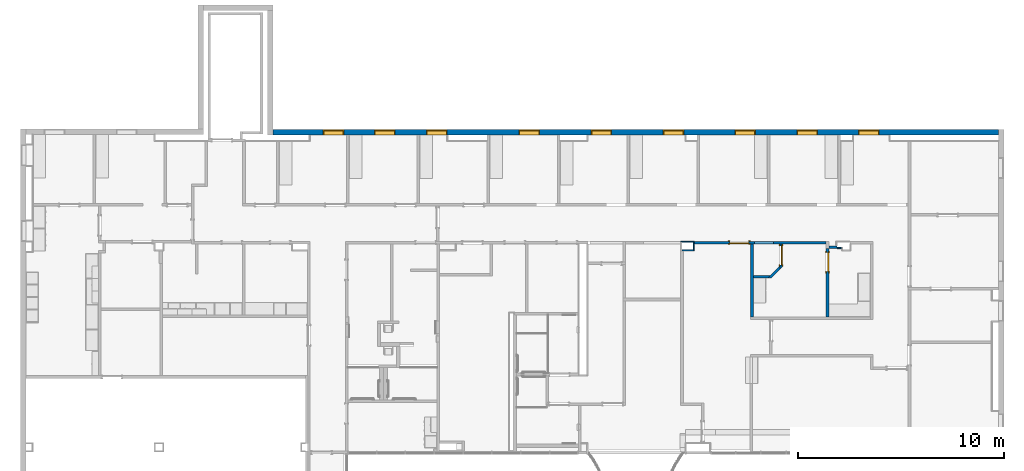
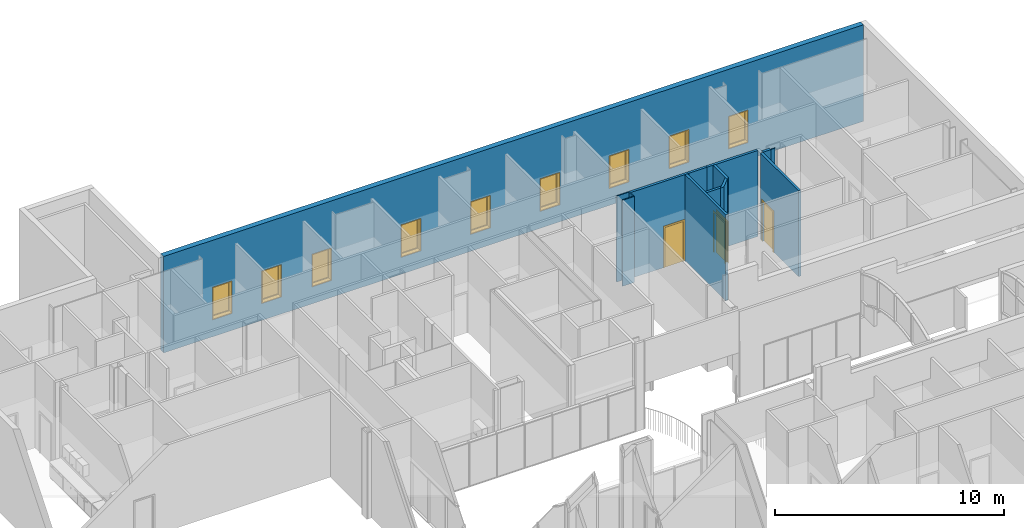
# One storey, part 23 of 47: 14 walls, 9 windows, 3 doors, 12 openings.
"""IFC2X3 building model written with IfcOpenShell, lengths in metres."""

from ifc_helpers import new_model, entity, si_unit, converted_unit, frame, frame_2d, origin, origin_2d_with_axis, place, context, project, spatial, polyline, rectangle, outline, extrude, source, transform, mapped, material, layer, layer_set, layer_usage, type_object, type_shapes, element, fill, save


model = new_model("IFC2X3")

# Units and contexts
model_context = context("Model", 3, precision=1e-09, world=origin())
plan_context = context("Plan", 3, precision=1e-09, world=origin())
ifc_project = project(units=[si_unit("LENGTHUNIT", "METRE"), si_unit("AREAUNIT", "SQUARE_METRE"), si_unit("VOLUMEUNIT", "CUBIC_METRE"), converted_unit("PLANEANGLEUNIT", "DEGREE", entity("IfcRatioMeasure", 0.01745329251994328), si_unit("PLANEANGLEUNIT", "RADIAN"), dimensions=[0, 0, 0, 0, 0, 0, 0]), si_unit("TIMEUNIT", "SECOND")], contexts=[model_context, plan_context])

# Site, building, storey
site_placement = place(None, origin())
site = spatial("IfcSite", under=ifc_project, at=site_placement, Name="Default", CompositionType="ELEMENT")
building_placement = place(site_placement, origin())
building = spatial("IfcBuilding", under=site, at=building_placement, CompositionType="ELEMENT")
storey_placement = place(building_placement, frame((0.0, 0.0, 4.570000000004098)))
storey = spatial("IfcBuildingStorey", under=building, at=storey_placement, Name="Second Floor", CompositionType="ELEMENT", Elevation=4.570000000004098)

# Wall, openings, windows
ifc_material_1 = material(Name="Insulation - Insulated Panel")
ifc_layer_1 = layer(ifc_material_1, 0.042)
ifc_material_2 = material(Name="Metal - Firring")
ifc_layer_2 = layer(ifc_material_2, 0.038)
ifc_material_3 = material(Name="Wood - Sheathing - plywood")
ifc_layer_3 = layer(ifc_material_3, 0.019)
ifc_material_4 = material(Name="Metal - Stud Layer")
ifc_layer_4 = layer(ifc_material_4, 0.152)
ifc_material_5 = material(Name="Plasterboard")
ifc_layer_5 = layer(ifc_material_5, 0.016)
ifc_layer_set_1 = layer_set([ifc_layer_1, ifc_layer_2, ifc_layer_3, ifc_layer_4, ifc_layer_5], Name="Basic Wall:Exterior - Insul Panel on Mtl. Stud")
ifc_layer_usage_1 = layer_usage(ifc_layer_set_1, "AXIS2", "NEGATIVE", 0.1335)
wall_1_placement = place(storey_placement, frame((-35.1300000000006, 50.33649999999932, 0.0)))
wall_1 = element("IfcWallStandardCase", 1, at=wall_1_placement, inside=storey, material=ifc_layer_usage_1, Name="Basic Wall:Exterior - Insul Panel on Mtl. Stud", ObjectType="Basic Wall:Exterior - Insul Panel on Mtl. Stud", context=model_context, shape_type="SweptSolid", body=[
    extrude(rectangle(XDim=35.24300000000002, YDim=0.2670000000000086, at=frame_2d((17.62150000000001, 0.0), x_axis=(-1.0, 0.0))), origin(), (0.0, 0.0, 1.0), 5.136999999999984),
])
opening_1_placement = place(wall_1_placement, frame((2.450000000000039, -0.133500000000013, 0.905)))
opening_1 = element("IfcOpeningElement", 2, at=opening_1_placement, cuts=wall_1, Name="M_Fixed:1735 x 1000mm:1735 x 1000mm:1", ObjectType="Opening", context=model_context, shape_type="SweptSolid", body=[
    extrude(rectangle(XDim=1.734999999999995, YDim=0.9999999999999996, at=frame_2d((0.8674999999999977, 0.4999999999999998), x_axis=(1.0, 0.0))), frame((0.0, 0.0, 0.0), z_axis=(0.0, 1.0, 0.0), x_axis=(0.0, 0.0, 1.0)), (0.0, 0.0, 1.0), 0.267),
])
opening_2_placement = place(wall_1_placement, frame((4.940000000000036, -0.1335000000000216, 0.905)))
opening_2 = element("IfcOpeningElement", 3, at=opening_2_placement, cuts=wall_1, Name="M_Fixed:1735 x 1000mm:1735 x 1000mm:1", ObjectType="Opening", context=model_context, shape_type="SweptSolid", body=[
    extrude(rectangle(XDim=1.734999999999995, YDim=0.9999999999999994, at=frame_2d((0.8674999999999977, 0.5000000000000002), x_axis=(1.0, 0.0))), frame((0.0, 0.0, 0.0), z_axis=(0.0, 1.0, 0.0), x_axis=(0.0, 0.0, 1.0)), (0.0, 0.0, 1.0), 0.267),
])
opening_3_placement = place(wall_1_placement, frame((7.46, -0.1335000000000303, 0.905)))
opening_3 = element("IfcOpeningElement", 4, at=opening_3_placement, cuts=wall_1, Name="M_Fixed:1735 x 1000mm:1735 x 1000mm:1", ObjectType="Opening", context=model_context, shape_type="SweptSolid", body=[
    extrude(rectangle(XDim=1.734999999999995, YDim=0.9999999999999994, at=frame_2d((0.8674999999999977, 0.5000000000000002), x_axis=(1.0, 0.0))), frame((0.0, 0.0, 0.0), z_axis=(0.0, 1.0, 0.0), x_axis=(0.0, 0.0, 1.0)), (0.0, 0.0, 1.0), 0.267),
])
opening_4_placement = place(wall_1_placement, frame((11.95, -0.1335000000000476, 0.905)))
opening_4 = element("IfcOpeningElement", 5, at=opening_4_placement, cuts=wall_1, Name="M_Fixed:1735 x 1000mm:1735 x 1000mm:1", ObjectType="Opening", context=model_context, shape_type="SweptSolid", body=[
    extrude(rectangle(XDim=1.734999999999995, YDim=0.9999999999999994, at=frame_2d((0.8674999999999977, 0.5000000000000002), x_axis=(1.0, 0.0))), frame((0.0, 0.0, 0.0), z_axis=(0.0, 1.0, 0.0), x_axis=(0.0, 0.0, 1.0)), (0.0, 0.0, 1.0), 0.267),
])
opening_5_placement = place(wall_1_placement, frame((15.46000000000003, -0.1335000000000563, 0.905)))
opening_5 = element("IfcOpeningElement", 6, at=opening_5_placement, cuts=wall_1, Name="M_Fixed:1735 x 1000mm:1735 x 1000mm:1", ObjectType="Opening", context=model_context, shape_type="SweptSolid", body=[
    extrude(rectangle(XDim=1.734999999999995, YDim=0.9999999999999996, at=frame_2d((0.8674999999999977, 0.5000000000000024), x_axis=(1.0, 0.0))), frame((0.0, 0.0, 0.0), z_axis=(0.0, 1.0, 0.0), x_axis=(0.0, 0.0, 1.0)), (0.0, 0.0, 1.0), 0.267),
])
opening_6_placement = place(wall_1_placement, frame((18.96002500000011, -0.133500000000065, 0.905)))
opening_6 = element("IfcOpeningElement", 7, at=opening_6_placement, cuts=wall_1, Name="M_Fixed:1735 x 1000mm:1735 x 1000mm:1", ObjectType="Opening", context=model_context, shape_type="SweptSolid", body=[
    extrude(rectangle(XDim=1.734999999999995, YDim=0.9999999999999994, at=frame_2d((0.8674999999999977, 0.5000000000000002), x_axis=(1.0, 0.0))), frame((0.0, 0.0, 0.0), z_axis=(0.0, 1.0, 0.0), x_axis=(0.0, 0.0, 1.0)), (0.0, 0.0, 1.0), 0.267),
])
opening_7_placement = place(wall_1_placement, frame((22.43600000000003, -0.1335000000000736, 0.905)))
opening_7 = element("IfcOpeningElement", 8, at=opening_7_placement, cuts=wall_1, Name="M_Fixed:1735 x 1000mm:1735 x 1000mm:1", ObjectType="Opening", context=model_context, shape_type="SweptSolid", body=[
    extrude(rectangle(XDim=1.734999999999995, YDim=0.9999999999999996, at=frame_2d((0.8674999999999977, 0.4999999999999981), x_axis=(1.0, 0.0))), frame((0.0, 0.0, 0.0), z_axis=(0.0, 1.0, 0.0), x_axis=(0.0, 0.0, 1.0)), (0.0, 0.0, 1.0), 0.267),
])
opening_8_placement = place(wall_1_placement, frame((25.45000000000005, -0.1335000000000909, 0.905)))
opening_8 = element("IfcOpeningElement", 9, at=opening_8_placement, cuts=wall_1, Name="M_Fixed:1735 x 1000mm:1735 x 1000mm:1", ObjectType="Opening", context=model_context, shape_type="SweptSolid", body=[
    extrude(rectangle(XDim=1.734999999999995, YDim=0.9999999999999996, at=frame_2d((0.8674999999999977, 0.4999999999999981), x_axis=(1.0, 0.0))), frame((0.0, 0.0, 0.0), z_axis=(0.0, 1.0, 0.0), x_axis=(0.0, 0.0, 1.0)), (0.0, 0.0, 1.0), 0.267),
])
opening_9_placement = place(wall_1_placement, frame((28.44000000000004, -0.1335000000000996, 0.905)))
opening_9 = element("IfcOpeningElement", 10, at=opening_9_placement, cuts=wall_1, Name="M_Fixed:1735 x 1000mm:1735 x 1000mm:1", ObjectType="Opening", context=model_context, shape_type="SweptSolid", body=[
    extrude(rectangle(XDim=1.734999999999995, YDim=0.9999999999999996, at=frame_2d((0.8674999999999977, 0.5000000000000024), x_axis=(1.0, 0.0))), frame((0.0, 0.0, 0.0), z_axis=(0.0, 1.0, 0.0), x_axis=(0.0, 0.0, 1.0)), (0.0, 0.0, 1.0), 0.267),
])
window_style = type_object("IfcWindowStyle", Name="1735 x 1000mm", ConstructionType="NOTDEFINED", OperationType="NOTDEFINED", ParameterTakesPrecedence=False, Sizeable=False)
shared_shape_1 = source(origin(), model_context, "Body", "SweptSolid", [
    extrude(rectangle(XDim=0.012, YDim=0.873999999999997, at=origin_2d_with_axis()), frame((0.5000000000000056, 0.2259999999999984, 0.06299999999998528), z_axis=(0.0, 0.0, 1.0), x_axis=(0.0, -1.0, 0.0)), (0.0, 0.0, 1.0), 1.609000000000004),
    extrude(outline(polyline([(-0.4809999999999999, -0.8485000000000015), (0.4809999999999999, -0.8485000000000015), (0.4809999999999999, 0.8485000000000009), (-0.4809999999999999, 0.8485000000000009), (-0.4809999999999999, -0.8485000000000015)]), holes=[polyline([(-0.4369999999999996, -0.8045000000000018), (-0.4369999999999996, 0.8045000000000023), (0.4369999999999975, 0.8045000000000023), (0.4369999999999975, -0.8045000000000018), (-0.4369999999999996, -0.8045000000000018)])]), frame((0.5000000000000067, 0.203999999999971, 0.8674999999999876), z_axis=(0.0, 1.0, 0.0), x_axis=(1.0, 0.0, 0.0)), (0.0, 0.0, 1.0), 0.04400000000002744),
    extrude(outline(polyline([(-0.4999999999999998, -0.8674999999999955), (0.4999999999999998, -0.8674999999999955), (0.4999999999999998, 0.8674999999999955), (-0.4999999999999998, 0.8674999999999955), (-0.4999999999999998, -0.8674999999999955)]), holes=[polyline([(-0.4810000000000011, -0.8484999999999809), (-0.4810000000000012, 0.8485000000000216), (0.4809999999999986, 0.8485000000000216), (0.4809999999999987, -0.8484999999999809), (-0.4810000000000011, -0.8484999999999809)])]), frame((0.500000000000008, 0.203999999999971, 0.8675000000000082), z_axis=(0.0, 1.0, 0.0), x_axis=(1.0, 0.0, 0.0)), (0.0, 0.0, 1.0), 0.06300000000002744),
    extrude(outline(polyline([(-0.5000000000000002, -0.867499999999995), (0.5000000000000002, -0.867499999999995), (0.5000000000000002, 0.867499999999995), (-0.5000000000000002, 0.867499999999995), (-0.5000000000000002, -0.867499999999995)]), holes=[polyline([(-0.4679999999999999, -0.8354999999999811), (-0.4679999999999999, 0.8355000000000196), (0.4680000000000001, 0.8355000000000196), (0.4680000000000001, -0.8354999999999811), (-0.4679999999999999, -0.8354999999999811)])]), frame((0.5000000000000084, 0.0, 0.8675000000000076), z_axis=(0.0, 1.0, 0.0), x_axis=(1.0, 0.0, 0.0)), (0.0, 0.0, 1.0), 0.2039999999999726),
])
type_shapes(window_style, [shared_shape_1])
window_1_placement = place(opening_1_placement, origin())
window_1 = element("IfcWindow", 11, at=window_1_placement, inside=storey, type_object=window_style, Name="M_Fixed:1735 x 1000mm:1735 x 1000mm", ObjectType="1735 x 1000mm", OverallHeight=1.734999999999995, OverallWidth=0.9999999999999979, context=model_context, shape_type="MappedRepresentation", body=[
    mapped(shared_shape_1, transform((0.0, 0.0, 0.0), scale=1.0)),
])
fill(opening_1, window_1)
window_2_placement = place(opening_2_placement, origin())
window_2 = element("IfcWindow", 12, at=window_2_placement, inside=storey, type_object=window_style, Name="M_Fixed:1735 x 1000mm:1735 x 1000mm", ObjectType="1735 x 1000mm", OverallHeight=1.734999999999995, OverallWidth=0.9999999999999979, context=model_context, shape_type="MappedRepresentation", body=[
    mapped(shared_shape_1, transform((0.0, 0.0, 0.0), scale=1.0)),
])
fill(opening_2, window_2)
window_3_placement = place(opening_3_placement, origin())
window_3 = element("IfcWindow", 13, at=window_3_placement, inside=storey, type_object=window_style, Name="M_Fixed:1735 x 1000mm:1735 x 1000mm", ObjectType="1735 x 1000mm", OverallHeight=1.734999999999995, OverallWidth=0.9999999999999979, context=model_context, shape_type="MappedRepresentation", body=[
    mapped(shared_shape_1, transform((0.0, 0.0, 0.0), scale=1.0)),
])
fill(opening_3, window_3)
window_4_placement = place(opening_4_placement, origin())
window_4 = element("IfcWindow", 14, at=window_4_placement, inside=storey, type_object=window_style, Name="M_Fixed:1735 x 1000mm:1735 x 1000mm", ObjectType="1735 x 1000mm", OverallHeight=1.734999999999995, OverallWidth=0.9999999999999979, context=model_context, shape_type="MappedRepresentation", body=[
    mapped(shared_shape_1, transform((0.0, 0.0, 0.0), scale=1.0)),
])
fill(opening_4, window_4)
window_5_placement = place(opening_5_placement, origin())
window_5 = element("IfcWindow", 15, at=window_5_placement, inside=storey, type_object=window_style, Name="M_Fixed:1735 x 1000mm:1735 x 1000mm", ObjectType="1735 x 1000mm", OverallHeight=1.734999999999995, OverallWidth=1.000000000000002, context=model_context, shape_type="MappedRepresentation", body=[
    mapped(shared_shape_1, transform((0.0, 0.0, 0.0), scale=1.0)),
])
fill(opening_5, window_5)
window_6_placement = place(opening_6_placement, origin())
window_6 = element("IfcWindow", 16, at=window_6_placement, inside=storey, type_object=window_style, Name="M_Fixed:1735 x 1000mm:1735 x 1000mm", ObjectType="1735 x 1000mm", OverallHeight=1.734999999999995, OverallWidth=1.0, context=model_context, shape_type="MappedRepresentation", body=[
    mapped(shared_shape_1, transform((0.0, 0.0, 0.0), scale=1.0)),
])
fill(opening_6, window_6)
window_7_placement = place(opening_7_placement, origin())
window_7 = element("IfcWindow", 17, at=window_7_placement, inside=storey, type_object=window_style, Name="M_Fixed:1735 x 1000mm:1735 x 1000mm", ObjectType="1735 x 1000mm", OverallHeight=1.734999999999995, OverallWidth=1.0, context=model_context, shape_type="MappedRepresentation", body=[
    mapped(shared_shape_1, transform((0.0, 0.0, 0.0), scale=1.0)),
])
fill(opening_7, window_7)
window_8_placement = place(opening_8_placement, origin())
window_8 = element("IfcWindow", 18, at=window_8_placement, inside=storey, type_object=window_style, Name="M_Fixed:1735 x 1000mm:1735 x 1000mm", ObjectType="1735 x 1000mm", OverallHeight=1.734999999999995, OverallWidth=1.0, context=model_context, shape_type="MappedRepresentation", body=[
    mapped(shared_shape_1, transform((0.0, 0.0, 0.0), scale=1.0)),
])
fill(opening_8, window_8)
window_9_placement = place(opening_9_placement, origin())
window_9 = element("IfcWindow", 19, at=window_9_placement, inside=storey, type_object=window_style, Name="M_Fixed:1735 x 1000mm:1735 x 1000mm", ObjectType="1735 x 1000mm", OverallHeight=1.734999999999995, OverallWidth=1.0, context=model_context, shape_type="MappedRepresentation", body=[
    mapped(shared_shape_1, transform((0.0, 0.0, 0.0), scale=1.0)),
])
fill(opening_9, window_9)

# Wall, opening, door
ifc_layer_6 = layer(ifc_material_5, 0.016)
ifc_layer_7 = layer(ifc_material_4, 0.092)
ifc_layer_8 = layer(ifc_material_5, 0.016)
ifc_layer_set_2 = layer_set([ifc_layer_6, ifc_layer_7, ifc_layer_8], Name="Basic Wall:Interior - Partition (92mm Stud)")
ifc_layer_usage_2 = layer_usage(ifc_layer_set_2, "AXIS2", "NEGATIVE", 0.062)
wall_2_placement = place(storey_placement, frame((-14.6499750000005, 44.9824387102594, 0.0)))
wall_2 = element("IfcWallStandardCase", 20, at=wall_2_placement, inside=storey, material=ifc_layer_usage_2, Name="Basic Wall:Interior - Partition (92mm Stud)", ObjectType="Basic Wall:Interior - Partition (92mm Stud)", context=model_context, shape_type="SweptSolid", body=[
    extrude(rectangle(XDim=2.919974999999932, YDim=0.1240000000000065, at=frame_2d((1.459987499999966, 0.0), x_axis=(-1.0, 0.0))), origin(), (0.0, 0.0, 1.0), 4.577999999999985),
])
opening_10_placement = place(wall_2_placement, frame((2.629974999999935, 0.06199999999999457, 0.0)))
opening_10 = element("IfcOpeningElement", 21, at=opening_10_placement, cuts=wall_2, Name="M_Single-Flush:0915 x 2134mm:0915 x 2134mm:1", ObjectType="Opening", context=model_context, shape_type="SweptSolid", body=[
    extrude(rectangle(XDim=0.9149999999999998, YDim=2.134, at=frame_2d((1.067, 0.4574999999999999), x_axis=(0.0, -1.0))), frame((0.0, 0.0, 0.0), z_axis=(0.0, -1.0, 0.0), x_axis=(0.0, 0.0, 1.0)), (0.0, 0.0, 1.0), 0.124),
])
door_style = type_object("IfcDoorStyle", Name="0915 x 2134mm", ConstructionType="NOTDEFINED", OperationType="SINGLE_SWING_LEFT", ParameterTakesPrecedence=False, Sizeable=False)
shared_shape_2 = source(origin(), model_context, "Body", "SweptSolid", [
    extrude(outline(polyline([(-0.5335, -1.123999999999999), (0.5334999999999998, -1.123999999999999), (0.5334999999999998, 1.086), (0.4574999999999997, 1.086), (0.4574999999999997, -1.048000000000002), (-0.4574999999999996, -1.048000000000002), (-0.4574999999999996, 1.086), (-0.5335, 1.086), (-0.5335, -1.123999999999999)])), frame((0.4575000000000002, 0.1489999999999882, 1.086), z_axis=(0.0, -1.0, 0.0), x_axis=(-1.0, 0.0, 0.0)), (0.0, 0.0, 1.0), 0.02499999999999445),
    extrude(outline(polyline([(-1.123999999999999, -0.5334999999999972), (1.085999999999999, -0.5334999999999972), (1.085999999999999, -0.4575000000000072), (-1.048, -0.4575000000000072), (-1.048, 0.4575000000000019), (1.085999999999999, 0.4575000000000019), (1.085999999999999, 0.5335000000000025), (-1.123999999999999, 0.5335000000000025), (-1.123999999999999, -0.5334999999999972)])), frame((0.4574999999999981, 0.0, 1.085999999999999), z_axis=(0.0, -1.0, 0.0), x_axis=(0.0, 0.0, -1.0)), (0.0, 0.0, 1.0), 0.02500000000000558),
    extrude(rectangle(XDim=0.9149999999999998, YDim=0.051, at=origin_2d_with_axis()), frame((0.4575000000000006, 0.09849999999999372, 0.0)), (0.0, 0.0, 1.0), 2.133999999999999),
])
type_shapes(door_style, [shared_shape_2])
door_1_placement = place(opening_10_placement, frame((0.0, 0.0, 0.0), z_axis=(0.0, 0.0, 1.0), x_axis=(-1.0, 0.0, 0.0)))
door_1 = element("IfcDoor", 22, at=door_1_placement, inside=storey, type_object=door_style, Name="M_Single-Flush:0915 x 2134mm:0915 x 2134mm", ObjectType="0915 x 2134mm", OverallHeight=2.134, OverallWidth=0.9149999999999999, context=model_context, shape_type="MappedRepresentation", body=[
    mapped(shared_shape_2, transform((0.0, 0.0, 0.0), scale=1.0)),
])
fill(opening_10, door_1)

# Walls
ifc_layer_usage_3 = layer_usage(ifc_layer_set_2, "AXIS2", "NEGATIVE", 0.062)
wall_3_placement = place(storey_placement, frame((-10.81500000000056, 44.98243871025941, 0.0)))
element("IfcWallStandardCase", 23, at=wall_3_placement, inside=storey, material=ifc_layer_usage_3, Name="Basic Wall:Interior - Partition (92mm Stud)", ObjectType="Basic Wall:Interior - Partition (92mm Stud)", context=model_context, shape_type="SweptSolid", body=[
    extrude(rectangle(XDim=2.561, YDim=0.1240000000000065, at=frame_2d((1.2805, 0.0), x_axis=(-1.0, 0.0))), origin(), (0.0, 0.0, 1.0), 4.577999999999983),
])
ifc_layer_usage_4 = layer_usage(ifc_layer_set_2, "AXIS2", "NEGATIVE", 0.062)
wall_4_placement = place(storey_placement, frame((-8.13000000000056, 44.75743885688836, 0.0)))
element("IfcWallStandardCase", 24, at=wall_4_placement, inside=storey, material=ifc_layer_usage_4, Name="Basic Wall:Interior - Partition (92mm Stud)", ObjectType="Basic Wall:Interior - Partition (92mm Stud)", context=model_context, shape_type="SweptSolid", body=[
    extrude(rectangle(XDim=0.4039997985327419, YDim=0.1240000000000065, at=frame_2d((0.2019998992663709, 0.0), x_axis=(-1.0, 0.0))), origin(), (0.0, 0.0, 1.0), 4.577999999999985),
])
ifc_layer_usage_5 = layer_usage(ifc_layer_set_2, "AXIS2", "NEGATIVE", 0.062)
wall_5_placement = place(storey_placement, frame((-11.85800000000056, 41.3784387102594, 0.0), z_axis=(0.0, 0.0, 1.0), x_axis=(0.0, 1.0, 0.0)))
element("IfcWallStandardCase", 25, at=wall_5_placement, inside=storey, material=ifc_layer_usage_5, Name="Basic Wall:Interior - Partition (92mm Stud)", ObjectType="Basic Wall:Interior - Partition (92mm Stud)", context=model_context, shape_type="SweptSolid", body=[
    extrude(rectangle(XDim=3.541999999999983, YDim=0.1240000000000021, at=frame_2d((1.770999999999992, 0.0), x_axis=(-1.0, 0.0))), origin(), (0.0, 0.0, 1.0), 4.577999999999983),
])

# Wall, opening, door
ifc_layer_usage_6 = layer_usage(ifc_layer_set_2, "AXIS2", "NEGATIVE", 0.062)
wall_6_placement = place(storey_placement, frame((-10.44197086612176, 44.92043871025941, 0.0), z_axis=(0.0, 0.0, 1.0), x_axis=(0.0, -1.0, 0.0)))
wall_6 = element("IfcWallStandardCase", 26, at=wall_6_placement, inside=storey, material=ifc_layer_usage_6, Name="Basic Wall:Interior - Partition (92mm Stud)", ObjectType="Basic Wall:Interior - Partition (92mm Stud)", context=model_context, shape_type="SweptSolid", body=[
    extrude(outline(polyline([(0.0, -0.0619999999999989), (1.060230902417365, -0.061999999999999), (1.235593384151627, -0.06199999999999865), (1.111593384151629, 0.06200000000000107), (0.0, 0.06200000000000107), (0.0, -0.0619999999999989)])), origin(), (0.0, 0.0, 1.0), 4.577999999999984),
])
opening_11_placement = place(wall_6_placement, frame((0.09999999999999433, -0.06200000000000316, 0.0)))
opening_11 = element("IfcOpeningElement", 27, at=opening_11_placement, cuts=wall_6, Name="M_Single-Flush:0915 x 2134mm:0915 x 2134mm:1", ObjectType="Opening", context=model_context, shape_type="SweptSolid", body=[
    extrude(rectangle(XDim=0.9149999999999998, YDim=2.134, at=frame_2d((1.067, 0.4575000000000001), x_axis=(0.0, -1.0))), frame((0.0, 0.0, 0.0), z_axis=(0.0, 1.0, 0.0), x_axis=(0.0, 0.0, 1.0)), (0.0, 0.0, 1.0), 0.124),
])
door_2_placement = place(opening_11_placement, origin())
door_2 = element("IfcDoor", 28, at=door_2_placement, inside=storey, type_object=door_style, Name="M_Single-Flush:0915 x 2134mm:0915 x 2134mm", ObjectType="0915 x 2134mm", OverallHeight=2.134, OverallWidth=0.9149999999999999, context=model_context, shape_type="MappedRepresentation", body=[
    mapped(shared_shape_2, transform((0.0, 0.0, 0.0), scale=1.0)),
])
fill(opening_11, door_2)

# Walls
ifc_layer_usage_7 = layer_usage(ifc_layer_set_2, "AXIS2", "NEGATIVE", 0.062)
wall_7_placement = place(storey_placement, frame((-10.4601302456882, 43.81636718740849, 0.0), z_axis=(0.0, 0.0, 1.0), x_axis=(-0.7071067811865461, -0.7071067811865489, 0.0)))
element("IfcWallStandardCase", 29, at=wall_7_placement, inside=storey, material=ifc_layer_usage_7, Name="Basic Wall:Interior - Partition (92mm Stud)", ObjectType="Basic Wall:Interior - Partition (92mm Stud)", context=model_context, shape_type="SweptSolid", body=[
    extrude(outline(polyline([(0.8526375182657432, -0.06199999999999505), (0.7286375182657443, 0.06200000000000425), (0.1240000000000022, 0.06200000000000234), (0.0, -0.06199999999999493), (0.6772750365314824, -0.06199999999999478), (0.8526375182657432, -0.06199999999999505)])), origin(), (0.0, 0.0, 1.0), 4.577999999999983),
])
ifc_layer_usage_8 = layer_usage(ifc_layer_set_2, "AXIS2", "NEGATIVE", 0.062)
wall_8_placement = place(storey_placement, frame((-10.98287663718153, 43.31930203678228, 0.0), z_axis=(0.0, 0.0, 1.0), x_axis=(-1.0, 0.0, 0.0)))
element("IfcWallStandardCase", 30, at=wall_8_placement, inside=storey, material=ifc_layer_usage_8, Name="Basic Wall:Interior - Partition (92mm Stud)", ObjectType="Basic Wall:Interior - Partition (92mm Stud)", context=model_context, shape_type="SweptSolid", body=[
    extrude(outline(polyline([(0.813123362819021, -0.06199999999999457), (0.813123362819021, 0.06200000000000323), (0.1239999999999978, 0.06200000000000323), (0.0, -0.06199999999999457), (0.813123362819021, -0.06199999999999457)])), origin(), (0.0, 0.0, 1.0), 4.577999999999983),
])

# Wall, opening, door
ifc_layer_usage_9 = layer_usage(ifc_layer_set_2, "AXIS2", "NEGATIVE", 0.062)
wall_9_placement = place(storey_placement, frame((-8.192000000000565, 41.3784387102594, 0.0), z_axis=(0.0, 0.0, 1.0), x_axis=(0.0, 1.0, 0.0)))
wall_9 = element("IfcWallStandardCase", 31, at=wall_9_placement, inside=storey, material=ifc_layer_usage_9, Name="Basic Wall:Interior - Partition (92mm Stud)", ObjectType="Basic Wall:Interior - Partition (92mm Stud)", context=model_context, shape_type="SweptSolid", body=[
    extrude(rectangle(XDim=3.317000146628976, YDim=0.124, at=frame_2d((1.658500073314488, 0.0), x_axis=(-1.0, 0.0))), origin(), (0.0, 0.0, 1.0), 4.577999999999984),
])
opening_12_placement = place(wall_9_placement, frame((3.117000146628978, 0.06199999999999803, 0.0)))
opening_12 = element("IfcOpeningElement", 32, at=opening_12_placement, cuts=wall_9, Name="M_Single-Flush:0915 x 2134mm:0915 x 2134mm:1", ObjectType="Opening", context=model_context, shape_type="SweptSolid", body=[
    extrude(rectangle(XDim=0.9149999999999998, YDim=2.134, at=frame_2d((1.067, 0.4574999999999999), x_axis=(0.0, -1.0))), frame((0.0, 0.0, 0.0), z_axis=(0.0, -1.0, 0.0), x_axis=(0.0, 0.0, 1.0)), (0.0, 0.0, 1.0), 0.124),
])
door_3_placement = place(opening_12_placement, frame((0.0, 0.0, 0.0), z_axis=(0.0, 0.0, 1.0), x_axis=(-1.0, 0.0, 0.0)))
door_3 = element("IfcDoor", 33, at=door_3_placement, inside=storey, type_object=door_style, Name="M_Single-Flush:0915 x 2134mm:0915 x 2134mm", ObjectType="0915 x 2134mm", OverallHeight=2.134, OverallWidth=0.9149999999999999, context=model_context, shape_type="MappedRepresentation", body=[
    mapped(shared_shape_2, transform((0.0, 0.0, 0.0), scale=1.0)),
])
fill(opening_12, door_3)

# Walls
ifc_layer_usage_10 = layer_usage(ifc_layer_set_2, "AXIS2", "NEGATIVE", 0.062)
wall_10_placement = place(storey_placement, frame((-11.73000000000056, 44.98243871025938, 2.399999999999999)))
element("IfcWallStandardCase", 34, at=wall_10_placement, inside=storey, material=ifc_layer_usage_10, Name="Basic Wall:Interior - Partition (92mm Stud)", ObjectType="Basic Wall:Interior - Partition (92mm Stud)", context=model_context, shape_type="SweptSolid", body=[
    extrude(rectangle(XDim=0.915000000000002, YDim=0.1240000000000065, at=frame_2d((0.457500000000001, 0.0), x_axis=(-1.0, 0.0))), origin(), (0.0, 0.0, 1.0), 2.177999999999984),
])
ifc_layer_9 = layer(ifc_material_4, 0.038)
ifc_layer_10 = layer(ifc_material_5, 0.016)
ifc_layer_set_3 = layer_set([ifc_layer_9, ifc_layer_10], Name="Basic Wall:Interior - Furring (38 mm Stud)")
ifc_layer_usage_11 = layer_usage(ifc_layer_set_3, "AXIS2", "NEGATIVE", 0.027)
wall_11_placement = place(storey_placement, frame((-7.726000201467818, 44.72243885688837, 0.0)))
element("IfcWallStandardCase", 35, at=wall_11_placement, inside=storey, material=ifc_layer_usage_11, Name="Basic Wall:Interior - Furring (38 mm Stud)", ObjectType="Basic Wall:Interior - Furring (38 mm Stud)", context=model_context, shape_type="SweptSolid", body=[
    extrude(rectangle(XDim=0.2160002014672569, YDim=0.05400000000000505, at=frame_2d((0.1080001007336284, 0.0), x_axis=(-1.0, 0.0))), origin(), (0.0, 0.0, 1.0), 4.577999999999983),
])
ifc_layer_usage_12 = layer_usage(ifc_layer_set_3, "AXIS2", "POSITIVE", -0.027)
wall_12_placement = place(storey_placement, frame((-15.32000000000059, 45.01743871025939, 0.0)))
element("IfcWallStandardCase", 36, at=wall_12_placement, inside=storey, material=ifc_layer_usage_12, Name="Basic Wall:Interior - Furring (38 mm Stud)", ObjectType="Basic Wall:Interior - Furring (38 mm Stud)", context=model_context, shape_type="SweptSolid", body=[
    extrude(rectangle(XDim=0.6160250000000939, YDim=0.05400000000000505, at=frame_2d((0.3080125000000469, 0.0), x_axis=(-1.0, 0.0))), origin(), (0.0, 0.0, 1.0), 4.577999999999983),
])
ifc_layer_usage_13 = layer_usage(ifc_layer_set_3, "AXIS2", "POSITIVE", -0.027)
wall_13_placement = place(storey_placement, frame((-14.6499750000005, 44.6114387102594, 0.0), z_axis=(0.0, 0.0, 1.0), x_axis=(-1.0, 0.0, 0.0)))
element("IfcWallStandardCase", 37, at=wall_13_placement, inside=storey, material=ifc_layer_usage_13, Name="Basic Wall:Interior - Furring (38 mm Stud)", ObjectType="Basic Wall:Interior - Furring (38 mm Stud)", context=model_context, shape_type="SweptSolid", body=[
    extrude(rectangle(XDim=0.6160250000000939, YDim=0.05400000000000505, at=frame_2d((0.3080125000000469, 0.0), x_axis=(-1.0, 0.0))), origin(), (0.0, 0.0, 1.0), 4.577999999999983),
])
ifc_layer_usage_14 = layer_usage(ifc_layer_set_3, "AXIS2", "POSITIVE", -0.027)
wall_14_placement = place(storey_placement, frame((-14.67697500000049, 45.04443871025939, 0.0), z_axis=(0.0, 0.0, 1.0), x_axis=(0.0, -1.0, 0.0)))
element("IfcWallStandardCase", 38, at=wall_14_placement, inside=storey, material=ifc_layer_usage_14, Name="Basic Wall:Interior - Furring (38 mm Stud)", ObjectType="Basic Wall:Interior - Furring (38 mm Stud)", context=model_context, shape_type="SweptSolid", body=[
    extrude(rectangle(XDim=0.406000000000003, YDim=0.05400000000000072, at=frame_2d((0.2030000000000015, 0.0), x_axis=(-1.0, 0.0))), origin(), (0.0, 0.0, 1.0), 4.577999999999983),
])

save(model, "model.ifc")
